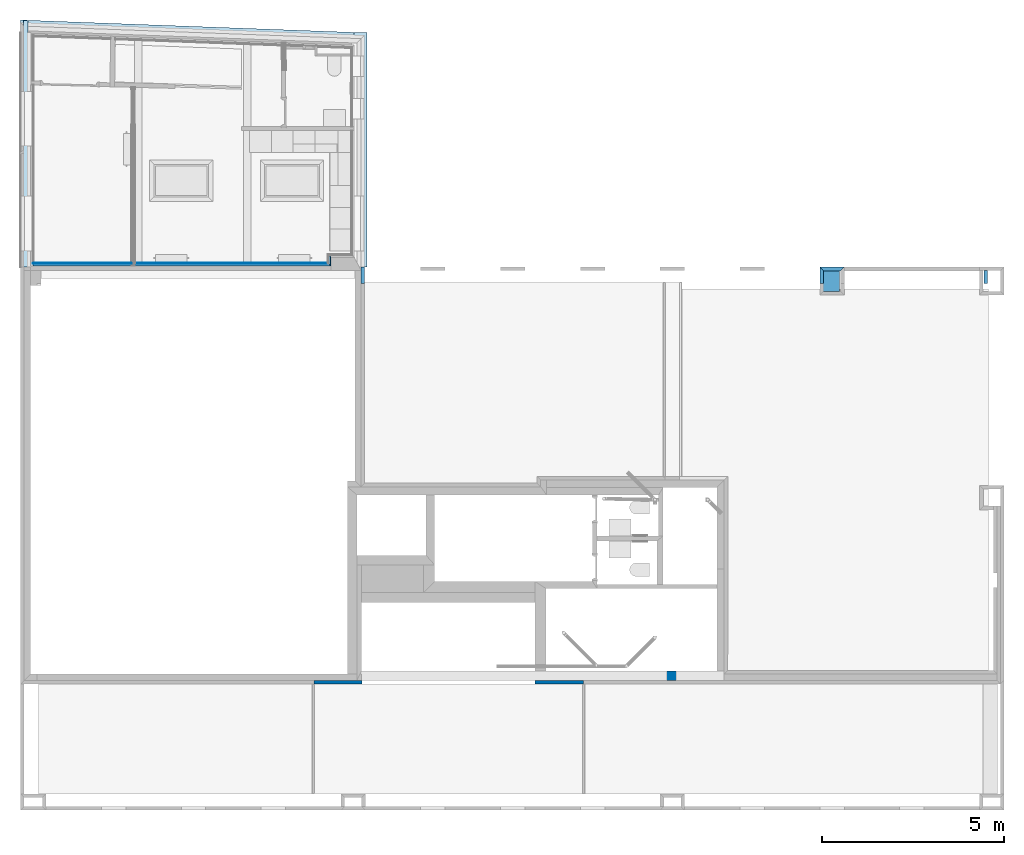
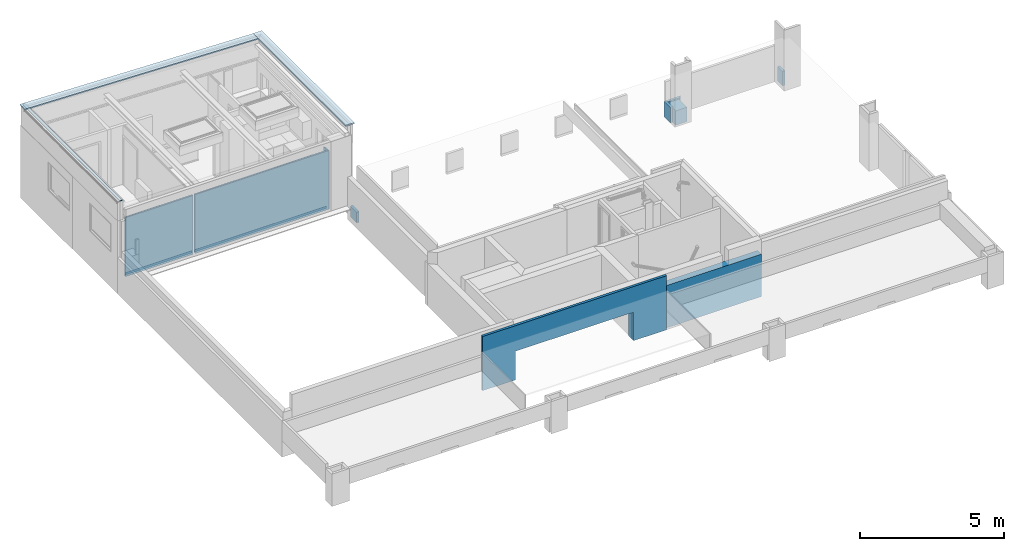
# One storey, part 7 of 23: 7 building element parts, 7 walls, 3 roofs, 3 elements without a shape of their own.
"""IFC2X3 building model written with IfcOpenShell, lengths in metres."""

import ifcopenshell
import ifcopenshell.guid

model = None  # the IFC model being written
_history = None  # IfcOwnerHistory: only IFC2X3 demands one
_inside = {}  # id of a spatial element -> (the spatial element, [elements in it])
_under = {}  # id of a project, library or spatial element -> (it, [spatial elements below it])
_declared = {}  # id of a project -> (the project, [libraries it declares])
_typed = {}  # id of a type object -> (the type object, [elements of that type])
_made_of = {}  # id of a material, layer set ... -> (it, [elements and type objects made of it])


def new_model(schema):
    """Start an empty IFC model of exactly this schema.

    Asked for "IFC4X3", IfcOpenShell would pick the latest addendum, in which some entities
    have other attributes; the version numbers below select the first issue.
    IFC2X3 requires an IfcOwnerHistory on every rooted entity: one is made here for all.
    """
    global model, _history
    if schema == "IFC4X3":
        model = ifcopenshell.file(schema_version=(4, 3, 0, 0))
    else:
        model = ifcopenshell.file(schema=schema)
    _inside.clear()
    _under.clear()
    _declared.clear()
    _typed.clear()
    _made_of.clear()
    _history = None
    if model.schema == "IFC2X3":
        org = make("IfcOrganization", Name="unknown")
        user = make(
            "IfcPersonAndOrganization",
            ThePerson=make("IfcPerson", FamilyName="unknown"),
            TheOrganization=org,
        )
        app = make(
            "IfcApplication",
            ApplicationDeveloper=org,
            Version="unknown",
            ApplicationFullName="unknown",
            ApplicationIdentifier="unknown",
        )
        _history = make(
            "IfcOwnerHistory",
            OwningUser=user,
            OwningApplication=app,
            ChangeAction="ADDED",
            CreationDate=0,
        )
    return model


def make(cls, **values):
    """One entity of the class cls with the attributes given. An attribute that is None is left unset."""
    return model.create_entity(
        cls, **{name: value for name, value in values.items() if value is not None}
    )


def entity(cls, *values):
    """Any entity or typed value of the class cls, its attributes in the order of the schema. None: left unset."""
    e = model.create_entity(cls)
    for i, value in enumerate(values):
        if value is not None:
            e[i] = value
    return e


def rooted(cls, **values):
    """An entity with a GlobalId (a new one), such as an element, a storey or a relation."""
    return make(cls, GlobalId=ifcopenshell.guid.new(), OwnerHistory=_history, **values)


def si_unit(unit_type, name, prefix=None):
    """IfcSIUnit, for example si_unit("LENGTHUNIT", "METRE", prefix="MILLI")."""
    return make("IfcSIUnit", UnitType=unit_type, Prefix=prefix, Name=name)


def converted_unit(unit_type, name, factor, base, dimensions=None, offset=None):
    """IfcConversionBasedUnit, such as the inch: factor (a typed value) times the base unit."""
    return make(
        "IfcConversionBasedUnit"
        if offset is None
        else "IfcConversionBasedUnitWithOffset",
        ConversionOffset=offset,
        Dimensions=None
        if dimensions is None
        else entity("IfcDimensionalExponents", *dimensions),
        UnitType=unit_type,
        Name=name,
        ConversionFactor=make(
            "IfcMeasureWithUnit", ValueComponent=factor, UnitComponent=base
        ),
    )


def derived_unit(unit_type, elements):
    """IfcDerivedUnit: a product of units, each with its exponent."""
    return make(
        "IfcDerivedUnit",
        Elements=[
            make("IfcDerivedUnitElement", Unit=unit, Exponent=power)
            for unit, power in elements
        ],
        UnitType=unit_type,
    )


def money_unit(currency):
    """IfcMonetaryUnit."""
    return make("IfcMonetaryUnit", Currency=currency)


def assignment(units):
    """IfcUnitAssignment: the units of a project."""
    return None if units is None else make("IfcUnitAssignment", Units=units)


def point(xyz):
    """IfcCartesianPoint."""
    return None if xyz is None else make("IfcCartesianPoint", Coordinates=xyz)


def direction(xyz):
    """IfcDirection."""
    return None if xyz is None else make("IfcDirection", DirectionRatios=xyz)


def frame(location, z_axis=None, x_axis=None):
    """IfcAxis2Placement3D, a coordinate frame: its origin and axes. An axis left out is left unset."""
    return make(
        "IfcAxis2Placement3D",
        Location=point(location),
        Axis=direction(z_axis),
        RefDirection=direction(x_axis),
    )


def frame_2d(location, x_axis=None):
    """IfcAxis2Placement2D, a coordinate frame in the plane: its origin and x axis."""
    return make(
        "IfcAxis2Placement2D", Location=point(location), RefDirection=direction(x_axis)
    )


def origin_with_axes():
    """The frame at (0, 0, 0) with the z axis (0, 0, 1) and the x axis (1, 0, 0) written out."""
    return frame((0.0, 0.0, 0.0), z_axis=(0.0, 0.0, 1.0), x_axis=(1.0, 0.0, 0.0))


def place(relative_to, where):
    """IfcLocalPlacement: puts the frame where relative to a parent placement (None: the world)."""
    return make(
        "IfcLocalPlacement", PlacementRelTo=relative_to, RelativePlacement=where
    )


def context(
    kind, dimensions, precision=None, world=None, true_north=None, identifier=None
):
    """IfcGeometricRepresentationContext, for example the 3D "Model" context."""
    return make(
        "IfcGeometricRepresentationContext",
        ContextIdentifier=identifier,
        ContextType=kind,
        CoordinateSpaceDimension=dimensions,
        Precision=precision,
        WorldCoordinateSystem=world,
        TrueNorth=true_north,
    )


def subcontext(parent, identifier, kind, view, scale=None):
    """IfcGeometricRepresentationSubContext, for example "Body" below "Model"."""
    return make(
        "IfcGeometricRepresentationSubContext",
        ContextIdentifier=identifier,
        ContextType=kind,
        ParentContext=parent,
        TargetScale=scale,
        TargetView=view,
    )


def project(units=None, contexts=None):
    """IfcProject with its units and contexts."""
    return rooted(
        "IfcProject",
        Name="project",
        RepresentationContexts=contexts,
        UnitsInContext=assignment(units),
    )


def spatial(cls, under=None, at=None, **own):
    """A site, building, storey or space (cls), placed at a placement, below another one or the project."""
    s = rooted(cls, ObjectPlacement=at, **own)
    if under is not None:
        _under.setdefault(under.id(), (under, []))[1].append(s)
    return s


def polyline(points):
    """IfcPolyline through the points."""
    return make("IfcPolyline", Points=[point(p) for p in points])


def profile(cls, at=None, kind="AREA", **sizes):
    """A parametric profile (cls). Its sizes go by their IFC names, for example OverallWidth=200.0."""
    return make(cls, ProfileType=kind, Position=at, **sizes)


def rectangle(**sizes):
    """IfcRectangleProfileDef."""
    return profile("IfcRectangleProfileDef", **sizes)


def outline(outer, holes=None, kind="AREA"):
    """IfcArbitraryClosedProfileDef: a profile drawn as a closed curve; with holes, ...WithVoids."""
    if holes is None:
        return make("IfcArbitraryClosedProfileDef", ProfileType=kind, OuterCurve=outer)
    return make(
        "IfcArbitraryProfileDefWithVoids",
        ProfileType=kind,
        OuterCurve=outer,
        InnerCurves=holes,
    )


def extrude(swept, where, along, depth):
    """IfcExtrudedAreaSolid: the profile swept, set in the frame where, extruded along a direction by depth."""
    return make(
        "IfcExtrudedAreaSolid",
        SweptArea=swept,
        Position=where,
        ExtrudedDirection=direction(along),
        Depth=depth,
    )


def faces_of(points, faces, orient=None, outer=None):
    """IfcFace entities. A face is a list of loops; a loop is a list of indices into points, from 0.

    orient and outer hold one flag for each loop. By default every Orientation is true, the
    first loop of a face is its IfcFaceOuterBound and the others are IfcFaceBound.
    """
    made = []
    for i, loops in enumerate(faces):
        bounds = []
        for j, loop in enumerate(loops):
            is_outer = j == 0 if outer is None else outer[i][j]
            bounds.append(
                make(
                    "IfcFaceOuterBound" if is_outer else "IfcFaceBound",
                    Bound=make("IfcPolyLoop", Polygon=[points[k] for k in loop]),
                    Orientation=True if orient is None else orient[i][j],
                )
            )
        made.append(make("IfcFace", Bounds=bounds))
    return made


def faceted_brep(points, faces, orient=None, outer=None, voids=None):
    """IfcFacetedBrep: a solid bounded by flat faces; with voids (closed shells), ...WithVoids."""
    shared = [point(p) for p in points]
    hull = make("IfcClosedShell", CfsFaces=faces_of(shared, faces, orient, outer))
    if voids is None:
        return make("IfcFacetedBrep", Outer=hull)
    return make(
        "IfcFacetedBrepWithVoids",
        Outer=hull,
        Voids=[
            make(cls, CfsFaces=faces_of(shared, fs, o, b)) for cls, fs, o, b in voids
        ],
    )


def shape(context_of_items, identifier, shape_type, items):
    """IfcShapeRepresentation: the items that make up one representation, for example the "Body"."""
    return make(
        "IfcShapeRepresentation",
        ContextOfItems=context_of_items,
        RepresentationIdentifier=identifier,
        RepresentationType=shape_type,
        Items=items,
    )


def material(Name=None, Category=None):
    """IfcMaterial."""
    return make("IfcMaterial", Name=Name, Category=Category)


def layer(
    of_material, thickness, ventilated=None, Name=None, Category=None, Priority=None
):
    """IfcMaterialLayer: one layer of a wall or slab, of a material (None: an air gap)."""
    return make(
        "IfcMaterialLayer",
        Material=of_material,
        LayerThickness=thickness,
        IsVentilated=ventilated,
        Name=Name,
        Category=Category,
        Priority=Priority,
    )


def layer_set(layers, Name=None):
    """IfcMaterialLayerSet."""
    return make("IfcMaterialLayerSet", MaterialLayers=layers, LayerSetName=Name)


def layer_usage(for_layer_set, set_direction, sense, offset, extent=None):
    """IfcMaterialLayerSetUsage: how a layer set lies in its element."""
    return make(
        "IfcMaterialLayerSetUsage",
        ForLayerSet=for_layer_set,
        LayerSetDirection=set_direction,
        DirectionSense=sense,
        OffsetFromReferenceLine=offset,
        ReferenceExtent=extent,
    )


def made_of(thing, what):
    """Note that an element or type object is made of a material, layer set ...; save() writes the relation."""
    if what is not None:
        _made_of.setdefault(what.id(), (what, []))[1].append(thing)
    return thing


def type_object(cls, material=None, **own):
    """A type object (cls), such as IfcWallType, which elements share."""
    return made_of(rooted(cls, **own), material)


def element(
    cls,
    number,
    at=None,
    inside=None,
    cuts=None,
    type_object=None,
    material=None,
    context=None,
    identifier="Body",
    shape_type=None,
    held_by="IfcProductDefinitionShape",
    body=None,
    shapes=None,
    **own,
):
    """One element of the class cls, such as IfcWall. Its Tag is "e" and its number.

    at: its placement. inside: the storey or other place that contains it. cuts: it is an
    opening in that element (IfcRelVoidsElement). A single representation is given by context,
    identifier, shape_type and body (its items); several are given by shapes. held_by: the class
    of the entity that holds the representations. save() writes the other relations.
    """
    e = rooted(cls, Tag="e%d" % number, ObjectPlacement=at, **own)
    if body is not None:
        shapes = [shape(context, identifier, shape_type, body)]
    if shapes is not None:
        e.Representation = make(held_by, Representations=shapes)
    if inside is not None:
        _inside.setdefault(inside.id(), (inside, []))[1].append(e)
    if cuts is not None:
        rooted(
            "IfcRelVoidsElement", RelatingBuildingElement=cuts, RelatedOpeningElement=e
        )
    if type_object is not None:
        _typed.setdefault(type_object.id(), (type_object, []))[1].append(e)
    return made_of(e, material)


def aggregate(whole, parts):
    """IfcRelAggregates: a whole, such as a stair, and the parts it consists of."""
    return rooted("IfcRelAggregates", RelatingObject=whole, RelatedObjects=parts)


def save(model, path):
    """Write the relations noted so far, then the file.

    IfcRelAggregates (storeys below a building ...), IfcRelContainedInSpatialStructure (elements
    in a storey), IfcRelDefinesByType, IfcRelAssociatesMaterial and IfcRelDeclares: one each for
    every whole, place, type object, material and project.
    """
    for whole, parts in _under.values():
        aggregate(whole, parts)
    for where, things in _inside.values():
        rooted(
            "IfcRelContainedInSpatialStructure",
            RelatedElements=things,
            RelatingStructure=where,
        )
    for kind, things in _typed.values():
        rooted("IfcRelDefinesByType", RelatedObjects=things, RelatingType=kind)
    for what, things in _made_of.values():
        rooted("IfcRelAssociatesMaterial", RelatedObjects=things, RelatingMaterial=what)
    for by, libraries in _declared.values():
        rooted("IfcRelDeclares", RelatingContext=by, RelatedDefinitions=libraries)
    model.write(path)


model = new_model("IFC2X3")

# Units and contexts
model_context = context("Model", 3, precision=1e-05, world=origin_with_axes(), true_north=direction((0.0, 1.0)))
body_context = subcontext(model_context, "Body", "Model", "MODEL_VIEW", scale=1.0)
ifc_project = project(units=[si_unit("LENGTHUNIT", "METRE"), si_unit("AREAUNIT", "SQUARE_METRE"), si_unit("VOLUMEUNIT", "CUBIC_METRE"), si_unit("ABSORBEDDOSEUNIT", "GRAY"), si_unit("AMOUNTOFSUBSTANCEUNIT", "MOLE"), si_unit("DOSEEQUIVALENTUNIT", "SIEVERT"), si_unit("ELECTRICCAPACITANCEUNIT", "FARAD"), si_unit("ELECTRICCHARGEUNIT", "COULOMB"), si_unit("ELECTRICCONDUCTANCEUNIT", "SIEMENS"), si_unit("ELECTRICCURRENTUNIT", "AMPERE"), si_unit("ELECTRICRESISTANCEUNIT", "OHM"), si_unit("ELECTRICVOLTAGEUNIT", "VOLT"), si_unit("ENERGYUNIT", "JOULE"), si_unit("FORCEUNIT", "NEWTON"), si_unit("FREQUENCYUNIT", "HERTZ"), si_unit("ILLUMINANCEUNIT", "LUX"), si_unit("INDUCTANCEUNIT", "HENRY"), si_unit("LUMINOUSFLUXUNIT", "LUMEN"), si_unit("LUMINOUSINTENSITYUNIT", "CANDELA"), si_unit("MAGNETICFLUXDENSITYUNIT", "TESLA"), si_unit("MAGNETICFLUXUNIT", "WEBER"), si_unit("MASSUNIT", "GRAM"), converted_unit("PLANEANGLEUNIT", "degree", entity("IfcReal", 0.0174532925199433), si_unit("PLANEANGLEUNIT", "RADIAN"), dimensions=[0, 0, 0, 0, 0, 0, 0]), si_unit("POWERUNIT", "WATT"), si_unit("PRESSUREUNIT", "PASCAL"), si_unit("RADIOACTIVITYUNIT", "BECQUEREL"), si_unit("SOLIDANGLEUNIT", "STERADIAN"), si_unit("THERMODYNAMICTEMPERATUREUNIT", "KELVIN"), si_unit("TIMEUNIT", "SECOND"), derived_unit("ACCELERATIONUNIT", [(si_unit("LENGTHUNIT", "METRE"), 1), (si_unit("TIMEUNIT", "SECOND"), -2)]), derived_unit("ANGULARVELOCITYUNIT", [(converted_unit("PLANEANGLEUNIT", "degree", entity("IfcReal", 0.0174532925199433), si_unit("PLANEANGLEUNIT", "RADIAN"), dimensions=[0, 0, 0, 0, 0, 0, 0]), 1), (si_unit("TIMEUNIT", "SECOND"), -1)]), derived_unit("CURVATUREUNIT", [(converted_unit("PLANEANGLEUNIT", "degree", entity("IfcReal", 0.0174532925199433), si_unit("PLANEANGLEUNIT", "RADIAN"), dimensions=[0, 0, 0, 0, 0, 0, 0]), 1), (si_unit("LENGTHUNIT", "METRE"), -1)]), derived_unit("DYNAMICVISCOSITYUNIT", [(si_unit("PRESSUREUNIT", "PASCAL"), 1), (si_unit("TIMEUNIT", "SECOND"), 1)]), derived_unit("HEATFLUXDENSITYUNIT", [(si_unit("POWERUNIT", "WATT"), 1), (si_unit("LENGTHUNIT", "METRE"), -2)]), derived_unit("HEATINGVALUEUNIT", [(si_unit("ENERGYUNIT", "JOULE"), 1), (si_unit("MASSUNIT", "GRAM"), -1)]), derived_unit("INTEGERCOUNTRATEUNIT", [(si_unit("TIMEUNIT", "SECOND"), -1)]), derived_unit("IONCONCENTRATIONUNIT", [(si_unit("MASSUNIT", "GRAM"), 1), (si_unit("VOLUMEUNIT", "CUBIC_METRE"), -1)]), derived_unit("ISOTHERMALMOISTURECAPACITYUNIT", [(si_unit("VOLUMEUNIT", "CUBIC_METRE"), 1), (si_unit("MASSUNIT", "GRAM"), -1)]), derived_unit("KINEMATICVISCOSITYUNIT", [(si_unit("AREAUNIT", "SQUARE_METRE"), 1), (si_unit("TIMEUNIT", "SECOND"), -1)]), derived_unit("LINEARFORCEUNIT", [(si_unit("FORCEUNIT", "NEWTON"), 1), (si_unit("LENGTHUNIT", "METRE"), -1)]), derived_unit("LINEARMOMENTUNIT", [(si_unit("FORCEUNIT", "NEWTON"), 1), (si_unit("LENGTHUNIT", "METRE"), -1)]), derived_unit("LINEARSTIFFNESSUNIT", [(si_unit("FORCEUNIT", "NEWTON"), 1), (si_unit("LENGTHUNIT", "METRE"), -1)]), derived_unit("LINEARVELOCITYUNIT", [(si_unit("LENGTHUNIT", "METRE"), 1), (si_unit("TIMEUNIT", "SECOND"), -1)]), derived_unit("LUMINOUSINTENSITYDISTRIBUTIONUNIT", [(si_unit("LUMINOUSINTENSITYUNIT", "CANDELA"), 1), (si_unit("LUMINOUSFLUXUNIT", "LUMEN"), -1)]), derived_unit("MASSDENSITYUNIT", [(si_unit("MASSUNIT", "GRAM"), 1), (si_unit("VOLUMEUNIT", "CUBIC_METRE"), -1)]), derived_unit("MASSFLOWRATEUNIT", [(si_unit("MASSUNIT", "GRAM"), 1), (si_unit("TIMEUNIT", "SECOND"), -1)]), derived_unit("MASSPERLENGTHUNIT", [(si_unit("MASSUNIT", "GRAM"), 1), (si_unit("LENGTHUNIT", "METRE"), -1)]), derived_unit("MODULUSOFELASTICITYUNIT", [(si_unit("FORCEUNIT", "NEWTON"), 1), (si_unit("AREAUNIT", "SQUARE_METRE"), -1)]), derived_unit("MODULUSOFLINEARSUBGRADEREACTIONUNIT", [(si_unit("FORCEUNIT", "NEWTON"), 1), (si_unit("LENGTHUNIT", "METRE"), -2)]), derived_unit("MODULUSOFROTATIONALSUBGRADEREACTIONUNIT", [(si_unit("FORCEUNIT", "NEWTON"), 1), (si_unit("LENGTHUNIT", "METRE"), 1)]), derived_unit("MODULUSOFSUBGRADEREACTIONUNIT", [(si_unit("FORCEUNIT", "NEWTON"), 1), (si_unit("VOLUMEUNIT", "CUBIC_METRE"), -1)]), derived_unit("MOISTUREDIFFUSIVITYUNIT", [(si_unit("VOLUMEUNIT", "CUBIC_METRE"), 1), (si_unit("TIMEUNIT", "SECOND"), -1)]), derived_unit("MOLECULARWEIGHTUNIT", [(si_unit("MASSUNIT", "GRAM"), 1), (si_unit("AMOUNTOFSUBSTANCEUNIT", "MOLE"), -1)]), derived_unit("PLANARFORCEUNIT", [(si_unit("FORCEUNIT", "NEWTON"), 1), (si_unit("LENGTHUNIT", "METRE"), -2)]), derived_unit("ROTATIONALFREQUENCYUNIT", [(si_unit("TIMEUNIT", "SECOND"), -1)]), derived_unit("ROTATIONALMASSUNIT", [(si_unit("MASSUNIT", "GRAM"), 1), (si_unit("LENGTHUNIT", "METRE"), 2)]), derived_unit("ROTATIONALSTIFFNESSUNIT", [(si_unit("FORCEUNIT", "NEWTON"), 1), (si_unit("LENGTHUNIT", "METRE"), 1), (converted_unit("PLANEANGLEUNIT", "degree", entity("IfcReal", 0.0174532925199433), si_unit("PLANEANGLEUNIT", "RADIAN"), dimensions=[0, 0, 0, 0, 0, 0, 0]), -1)]), derived_unit("SECTIONAREAINTEGRALUNIT", [(si_unit("LENGTHUNIT", "METRE"), 5)]), derived_unit("SECTIONMODULUSUNIT", [(si_unit("LENGTHUNIT", "METRE"), 3)]), derived_unit("SHEARMODULUSUNIT", [(si_unit("FORCEUNIT", "NEWTON"), 1), (si_unit("AREAUNIT", "SQUARE_METRE"), -1)]), derived_unit("SOUNDPOWERUNIT", [(si_unit("ENERGYUNIT", "JOULE"), 1), (si_unit("TIMEUNIT", "SECOND"), -1)]), derived_unit("SPECIFICHEATCAPACITYUNIT", [(si_unit("FORCEUNIT", "NEWTON"), 1), (si_unit("MASSUNIT", "GRAM"), -1), (si_unit("THERMODYNAMICTEMPERATUREUNIT", "KELVIN"), -1)]), derived_unit("TEMPERATUREGRADIENTUNIT", [(si_unit("THERMODYNAMICTEMPERATUREUNIT", "KELVIN"), 1), (si_unit("LENGTHUNIT", "METRE"), -1)]), derived_unit("THERMALADMITTANCEUNIT", [(si_unit("POWERUNIT", "WATT"), 1), (si_unit("AREAUNIT", "SQUARE_METRE"), -1), (si_unit("THERMODYNAMICTEMPERATUREUNIT", "KELVIN"), -1)]), derived_unit("THERMALCONDUCTANCEUNIT", [(si_unit("POWERUNIT", "WATT"), 1), (si_unit("LENGTHUNIT", "METRE"), -1), (si_unit("THERMODYNAMICTEMPERATUREUNIT", "KELVIN"), -1)]), derived_unit("THERMALEXPANSIONCOEFFICIENTUNIT", [(si_unit("THERMODYNAMICTEMPERATUREUNIT", "KELVIN"), -1)]), derived_unit("THERMALRESISTANCEUNIT", [(si_unit("AREAUNIT", "SQUARE_METRE"), 1), (si_unit("POWERUNIT", "WATT"), -1)]), derived_unit("THERMALTRANSMITTANCEUNIT", [(si_unit("POWERUNIT", "WATT"), 1), (si_unit("AREAUNIT", "SQUARE_METRE"), -1), (si_unit("THERMODYNAMICTEMPERATUREUNIT", "KELVIN"), -1)]), derived_unit("TORQUEUNIT", [(si_unit("FORCEUNIT", "NEWTON"), 1), (si_unit("LENGTHUNIT", "METRE"), 1)]), derived_unit("VAPORPERMEABILITYUNIT", [(si_unit("MASSUNIT", "GRAM"), 1), (si_unit("TIMEUNIT", "SECOND"), -1)]), derived_unit("VOLUMETRICFLOWRATEUNIT", [(si_unit("VOLUMEUNIT", "CUBIC_METRE"), 1), (si_unit("TIMEUNIT", "SECOND"), -1)]), derived_unit("WARPINGCONSTANTUNIT", [(si_unit("LENGTHUNIT", "METRE"), 6)]), derived_unit("WARPINGMOMENTUNIT", [(si_unit("FORCEUNIT", "NEWTON"), 1), (si_unit("LENGTHUNIT", "METRE"), 2)]), money_unit("GBP")], contexts=[model_context])

# Site, building, storey
site_placement = place(None, origin_with_axes())
site = spatial("IfcSite", under=ifc_project, at=site_placement, Name="Site", CompositionType="ELEMENT")
building_placement = place(site_placement, origin_with_axes())
building = spatial("IfcBuilding", under=site, at=building_placement, Name="Building01", CompositionType="ELEMENT")
storey_placement = place(building_placement, frame((0.0, 0.0, 2.6), z_axis=(0.0, 0.0, 1.0), x_axis=(1.0, 0.0, 0.0)))
storey = spatial("IfcBuildingStorey", under=building, at=storey_placement, Name="MF", CompositionType="ELEMENT", Elevation=2.6)

# Walls
ifc_material_1 = material(Name="A_BSUK_WallsExternal_Brick")
ifc_layer_1 = layer(ifc_material_1, 0.1, ventilated=False)
ifc_layer_set_1 = layer_set([ifc_layer_1])
ifc_layer_usage_1 = layer_usage(ifc_layer_set_1, "AXIS2", "POSITIVE", 0.0)
wall_type_1 = type_object("IfcWallType", Name="A-Walls-ExternalBrick", PredefinedType="NOTDEFINED")
wall_1_placement = place(storey_placement, frame((22.6, 14.897172, -0.16), z_axis=(0.0, 0.0, 1.0), x_axis=(-1.0, 0.0, 0.0)))
element("IfcWallStandardCase", 1, at=wall_1_placement, inside=storey, type_object=wall_type_1, material=ifc_layer_usage_1, Name="A-Walls-ExternalBrick", ObjectType="A-Walls-ExternalBrick", context=body_context, shape_type="SweptSolid", body=[
    extrude(outline(polyline([(0.569994, 0.1), (0.100006, 0.1), (0.0, 0.0), (0.67, 0.0), (0.569994, 0.1)])), origin_with_axes(), (0.0, 0.0, 1.0), 0.659759),
])
wall_2_placement = place(storey_placement, frame((26.42974, 14.449011, -0.16), z_axis=(0.0, 0.0, 1.0), x_axis=(-5.782e-05, 1.0, 0.0)))
element("IfcWallStandardCase", 2, at=wall_2_placement, inside=storey, type_object=wall_type_1, material=ifc_layer_usage_1, Name="A-Walls-ExternalBrick", ObjectType="A-Walls-ExternalBrick", context=body_context, shape_type="SweptSolid", body=[
    extrude(outline(polyline([(0.350989, 0.0), (0.0, 0.0), (0.0, -0.1), (0.350983, -0.1), (0.350989, 0.0)])), origin_with_axes(), (0.0, 0.0, 1.0), 0.61),
])
wall_3_placement = place(storey_placement, frame((21.930026, 14.449011, -0.16), z_axis=(0.0, 0.0, 1.0), x_axis=(-5.782e-05, 1.0, 0.0)))
element("IfcWallStandardCase", 3, at=wall_3_placement, inside=storey, type_object=wall_type_1, material=ifc_layer_usage_1, Name="A-Walls-ExternalBrick", ObjectType="A-Walls-ExternalBrick", context=body_context, shape_type="SweptSolid", body=[
    extrude(outline(polyline([(0.448161, 0.0), (0.0, 0.0), (0.0, -0.1), (0.348155, -0.1), (0.448161, 0.0)])), origin_with_axes(), (0.0, 0.0, 1.0), 0.659759),
])
ifc_material_2 = material(Name="A_BSUK_WallsExternal_Block")
ifc_layer_2 = layer(ifc_material_2, 0.454, ventilated=False)
ifc_layer_set_2 = layer_set([ifc_layer_2])
ifc_layer_usage_2 = layer_usage(ifc_layer_set_2, "AXIS2", "POSITIVE", 0.0)
wall_type_2 = type_object("IfcWallType", Name="A-Walls-ExternalBlock", PredefinedType="NOTDEFINED")
wall_4_placement = place(storey_placement, frame((22.018156, 14.797172, -0.16), z_axis=(0.0, 0.0, 1.0), x_axis=(0.0, -1.0, 0.0)))
element("IfcWallStandardCase", 4, at=wall_4_placement, inside=storey, type_object=wall_type_2, material=ifc_layer_usage_2, Name="A-Walls-ExternalBlock", ObjectType="A-Walls-ExternalBlock", context=body_context, shape_type="SweptSolid", body=[
    extrude(rectangle(XDim=0.562876, YDim=0.454, at=frame_2d((0.281438, 0.227), x_axis=(-1.0, 0.0))), origin_with_axes(), (0.0, 0.0, 1.0), 0.61),
])
wall_type_3 = type_object("IfcWallType", Name="A-Walls-ExternalBlock", PredefinedType="NOTDEFINED")
wall_5_placement = place(storey_placement, frame((9.354099, 3.558962, 0.0), z_axis=(0.0, 0.0, 1.0), x_axis=(1.0, 0.0, 0.0)))
element("IfcWall", 5, at=wall_5_placement, inside=storey, type_object=wall_type_3, material=ifc_material_2, Name="A-Walls-ExternalBlock", ObjectType="A-Walls-ExternalBlock", context=body_context, shape_type="Brep", body=[
    faceted_brep([(0.015, 0.0, 0.0), (0.0, 0.0, 0.0), (0.0, 0.265, 0.0), (0.015, 0.265, 0.0), (0.0, 0.265, 1.8), (0.0, 0.0, 1.8), (9.948672, 0.0, 1.8), (9.948672, 0.265, 1.8), (9.948672, 0.265, 0.0), (4.755, 0.265, 0.0), (4.755, 0.265, 1.215), (0.015, 0.265, 1.215), (0.015, 0.0, 1.215), (4.755, 0.0, 1.215), (4.755, 0.0, 0.0), (9.948672, 0.0, 0.0)], [[[0, 1, 2, 3]], [[4, 5, 6, 7]], [[3, 2, 4, 7, 8, 9, 10, 11]], [[1, 5, 4, 2]], [[12, 13, 14, 15, 6, 5, 1, 0]], [[8, 7, 6, 15]], [[9, 8, 15, 14]], [[11, 12, 0, 3]], [[9, 14, 13, 10]], [[10, 13, 12, 11]]]),
])
wall_type_4 = type_object("IfcWallType", Name="A-Walls-ExternalBrick", PredefinedType="NOTDEFINED")
wall_6_placement = place(storey_placement, frame((8.054094, 3.459332, 0.0), z_axis=(0.0, 0.0, 1.0), x_axis=(1.0, 0.0, 0.0)))
element("IfcWall", 6, at=wall_6_placement, inside=storey, type_object=wall_type_4, material=ifc_material_1, Name="A-Walls-ExternalBrick", ObjectType="A-Walls-ExternalBrick", context=body_context, shape_type="Brep", body=[
    faceted_brep([(1.315006, 0.0, 0.0), (0.0, 0.0, 0.0), (0.0, 0.1, 0.0), (1.315006, 0.1, 0.0), (7.384767, 0.0, 2.3), (7.384767, 0.1, 2.3), (0.0, 0.1, 2.3), (0.0, 0.0, 2.3), (1.315006, 0.0, 1.215), (6.055006, 0.0, 1.215), (6.055006, 0.0, 0.0), (7.384767, 0.0, 0.0), (7.384767, 0.1, 0.0), (6.055006, 0.1, 0.0), (6.055006, 0.1, 1.215), (1.315006, 0.1, 1.215)], [[[0, 1, 2, 3]], [[4, 5, 6, 7]], [[8, 9, 10, 11, 4, 7, 1, 0]], [[12, 5, 4, 11]], [[3, 2, 6, 5, 12, 13, 14, 15]], [[1, 7, 6, 2]], [[13, 12, 11, 10]], [[0, 3, 15, 8]], [[9, 14, 13, 10]], [[8, 15, 14, 9]]]),
])
wall_7_placement = place(storey_placement, frame((9.443038, 14.449999, 0.0), z_axis=(0.0, 1.0, 0.0), x_axis=(0.0, 0.0, 1.0)))
element("IfcWall", 7, at=wall_7_placement, inside=storey, type_object=wall_type_4, material=ifc_material_1, Name="A-Walls-ExternalBrick", ObjectType="A-Walls-ExternalBrick", context=body_context, shape_type="SweptSolid", body=[
    extrude(rectangle(XDim=0.449998, YDim=0.1, at=frame_2d((0.224999, -0.05), x_axis=(1.0, 0.0))), frame((0.0, 0.0, 0.0), z_axis=(-3.51e-06, 0.0, 1.0), x_axis=(1.0, 0.0, 3.51e-06)), (3.51e-06, 0.0, 1.0), 0.451043),
])

# Roofs
ifc_material_3 = material(Name="A_BSUK_Roofs")
roof_1_placement = place(storey_placement, frame((-0.001026, 21.677622, 3.885), z_axis=(-0.03707143, -0.99931262, 0.0), x_axis=(0.99931262, -0.03707143, 0.0)))
element("IfcRoof", 8, at=roof_1_placement, inside=storey, material=ifc_material_3, Name="A-ZeeProfile01", ObjectType="A-ZeeProfile01", ShapeType="FREEFORM", context=body_context, shape_type="SweptSolid", body=[
    extrude(rectangle(XDim=9.176576, YDim=0.05, at=frame_2d((4.588288, 0.025), x_axis=(1.0, 0.0))), origin_with_axes(), (0.0, 0.0, 1.0), 0.35),
])
roof_2_placement = place(storey_placement, frame((9.505901, 14.9, 3.935), z_axis=(-1.0, 0.0, 0.0), x_axis=(0.0, 1.0, 0.0)))
element("IfcRoof", 9, at=roof_2_placement, inside=storey, material=ifc_material_3, Name="A-ZeeProfile01", ObjectType="A-ZeeProfile01", ShapeType="FREEFORM", context=body_context, shape_type="SweptSolid", body=[
    extrude(rectangle(XDim=6.437433, YDim=0.05, at=frame_2d((3.218716, 0.025), x_axis=(1.0, 0.0))), origin_with_axes(), (0.0, 0.0, 1.0), 0.35),
])
roof_3_placement = place(storey_placement, frame((0.086496, 14.9, 3.885), z_axis=(1.0, 0.0, 0.0), x_axis=(0.0, 1.0, 0.0)))
element("IfcRoof", 10, at=roof_3_placement, inside=storey, material=ifc_material_3, Name="A-ZeeProfile01", ObjectType="A-ZeeProfile01", ShapeType="FREEFORM", context=body_context, shape_type="SweptSolid", body=[
    extrude(rectangle(XDim=6.7669, YDim=0.023512, at=frame_2d((3.38345, 0.011756), x_axis=(1.0, 0.0))), origin_with_axes(), (0.0, 0.0, 1.0), 0.114724),
])

# Wall, building element parts
wall_type_5 = type_object("IfcWallType", Name="SHE_A-Walls_Type06c_ExternalWallInsulation_60mm", PredefinedType="NOTDEFINED")
wall_8_placement = place(storey_placement, frame((0.340777, 14.93, 0.585), z_axis=(0.0, 0.0, 1.0), x_axis=(1.0, 0.0, 0.0)))
wall_8 = element("IfcWall", 11, at=wall_8_placement, inside=storey, type_object=wall_type_5, Name="6C", ObjectType="SHE_A-Walls_Type06c_ExternalWallInsulation_60mm")
ifc_material_4 = material(Name="A_BSUK_Insulation")
placement_1 = place(wall_8_placement, origin_with_axes())
building_element_part_1 = element("IfcBuildingElementPart", 12, at=placement_1, material=ifc_material_4, Name="1", context=body_context, shape_type="SweptSolid", body=[
    extrude(rectangle(XDim=0.06, YDim=2.716637, at=frame_2d((1.358319, 0.03), x_axis=(0.0, -1.0))), origin_with_axes(), (0.0, 0.0, 1.0), 2.5),
])
ifc_material_5 = material(Name="A_BSUK_WallInternal_Finishes_Plasterboard")
building_element_part_2 = element("IfcBuildingElementPart", 13, at=placement_1, material=ifc_material_5, Name="2", context=body_context, shape_type="SweptSolid", body=[
    extrude(rectangle(XDim=0.013, YDim=2.717637, at=frame_2d((1.357819, 0.0655), x_axis=(0.0, -1.0))), origin_with_axes(), (0.0, 0.0, 1.0), 2.5),
])
ifc_material_6 = material(Name="A_BSUK_Walls_Timber")
building_element_part_3 = element("IfcBuildingElementPart", 14, at=placement_1, material=ifc_material_6, Name="3", context=body_context, shape_type="SweptSolid", body=[
    extrude(rectangle(XDim=2.674637, YDim=0.015, at=frame_2d((1.364319, 0.0795), x_axis=(-1.0, 0.0))), frame((0.0, 0.0, 0.015), z_axis=(0.0, 0.0, 1.0), x_axis=(1.0, 0.0, 0.0)), (0.0, 0.0, 1.0), 0.1),
])
aggregate(wall_8, [building_element_part_1, building_element_part_2, building_element_part_3])

wall_9_placement = place(storey_placement, frame((3.137414, 14.93, 0.585), z_axis=(0.0, 0.0, 1.0), x_axis=(1.0, 0.0, 0.0)))
wall_9 = element("IfcWall", 15, at=wall_9_placement, inside=storey, type_object=wall_type_5, Name="6C", ObjectType="SHE_A-Walls_Type06c_ExternalWallInsulation_60mm")
placement_2 = place(wall_9_placement, origin_with_axes())
building_element_part_4 = element("IfcBuildingElementPart", 16, at=placement_2, material=ifc_material_4, Name="1", context=body_context, shape_type="SweptSolid", body=[
    extrude(outline(polyline([(5.319479, 0.06), (0.0, 0.06), (0.0, 0.0), (5.379479, 0.0), (5.319479, 0.06)])), origin_with_axes(), (0.0, 0.0, 1.0), 2.5),
])
building_element_part_5 = element("IfcBuildingElementPart", 17, at=placement_2, material=ifc_material_5, Name="2", context=body_context, shape_type="SweptSolid", body=[
    extrude(outline(polyline([(5.307479, 0.072), (0.0, 0.072), (0.0, 0.059), (5.320479, 0.059), (5.307479, 0.072)])), origin_with_axes(), (0.0, 0.0, 1.0), 2.5),
])
building_element_part_6 = element("IfcBuildingElementPart", 18, at=placement_2, material=ifc_material_6, Name="3", context=body_context, shape_type="SweptSolid", body=[
    extrude(outline(polyline([(5.292479, 0.087), (0.015, 0.087), (0.015, 0.072), (5.307479, 0.072), (5.292479, 0.087)])), frame((0.0, 0.0, 0.015), z_axis=(0.0, 0.0, 1.0), x_axis=(1.0, 0.0, 0.0)), (0.0, 0.0, 1.0), 0.1),
])
aggregate(wall_9, [building_element_part_4, building_element_part_5, building_element_part_6])

# Wall, building element part
wall_10_placement = place(storey_placement, frame((8.516893, 14.93, 0.585), z_axis=(0.0, 0.0, 1.0), x_axis=(0.0, 1.0, 0.0)))
wall_10 = element("IfcWall", 19, at=wall_10_placement, inside=storey, type_object=wall_type_5, Name="6C", ObjectType="SHE_A-Walls_Type06c_ExternalWallInsulation_60mm")
building_element_part_7_placement = place(wall_10_placement, origin_with_axes())
building_element_part_7 = element("IfcBuildingElementPart", 20, at=building_element_part_7_placement, material=ifc_material_4, Name="1", context=body_context, shape_type="SweptSolid", body=[
    extrude(outline(polyline([(0.298, 0.06), (0.06, 0.06), (0.0, 0.0), (0.238, 0.0), (0.298, 0.06)])), origin_with_axes(), (0.0, 0.0, 1.0), 2.5),
])
aggregate(wall_10, [building_element_part_7])

save(model, "model.ifc")
